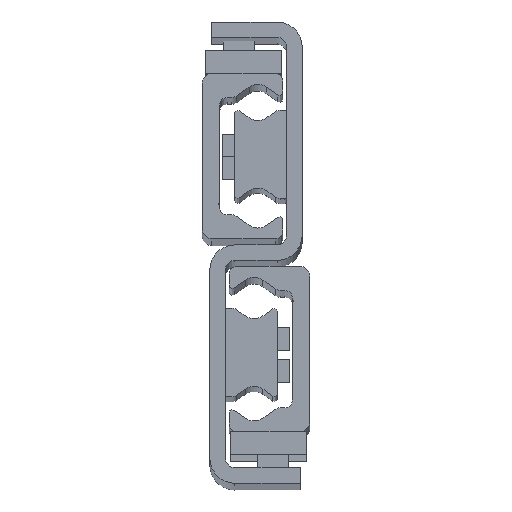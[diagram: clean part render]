
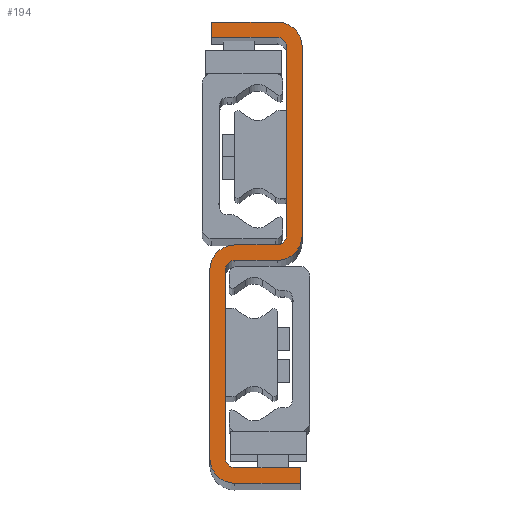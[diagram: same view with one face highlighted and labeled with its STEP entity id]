
A CAD part, top view. The second image highlights one B-rep face of the part: STEP entity #194.
In plain terms, the highlighted planar face has unit normal (0, 0, 1).
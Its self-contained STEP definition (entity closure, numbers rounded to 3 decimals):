
#194=ADVANCED_FACE('',(#633),#634,.T.);
#633=FACE_OUTER_BOUND('',#1319,.T.);
#634=PLANE('',#1320);
#1319=EDGE_LOOP('',(#2653,#2654,#2655,#2656,#2657,#2658,#2659,#2660,#2661,#2662,#2663,#2664,#2665,#2666,#2667,#2668,#2669,#2670,#2671,#2672));
#1320=AXIS2_PLACEMENT_3D('',#2673,#2674,#2675);
#2653=ORIENTED_EDGE('',*,*,#4557,.F.);
#2654=ORIENTED_EDGE('',*,*,#4615,.F.);
#2655=ORIENTED_EDGE('',*,*,#4612,.F.);
#2656=ORIENTED_EDGE('',*,*,#4609,.F.);
#2657=ORIENTED_EDGE('',*,*,#4606,.F.);
#2658=ORIENTED_EDGE('',*,*,#4603,.F.);
#2659=ORIENTED_EDGE('',*,*,#4600,.F.);
#2660=ORIENTED_EDGE('',*,*,#4597,.F.);
#2661=ORIENTED_EDGE('',*,*,#4594,.F.);
#2662=ORIENTED_EDGE('',*,*,#4591,.F.);
#2663=ORIENTED_EDGE('',*,*,#4588,.F.);
#2664=ORIENTED_EDGE('',*,*,#4585,.F.);
#2665=ORIENTED_EDGE('',*,*,#4582,.F.);
#2666=ORIENTED_EDGE('',*,*,#4579,.F.);
#2667=ORIENTED_EDGE('',*,*,#4576,.F.);
#2668=ORIENTED_EDGE('',*,*,#4573,.F.);
#2669=ORIENTED_EDGE('',*,*,#4570,.F.);
#2670=ORIENTED_EDGE('',*,*,#4567,.F.);
#2671=ORIENTED_EDGE('',*,*,#4564,.F.);
#2672=ORIENTED_EDGE('',*,*,#4561,.F.);
#2673=CARTESIAN_POINT('',(-14.,26.,1528.0));
#2674=DIRECTION('',(0.0,0.0,1.0));
#2675=DIRECTION('',(1.0,0.0,0.0));
#4557=EDGE_CURVE('',#5535,#5536,#5537,.T.);
#4561=EDGE_CURVE('',#5536,#5543,#5544,.T.);
#4564=EDGE_CURVE('',#5543,#5548,#5549,.T.);
#4567=EDGE_CURVE('',#5548,#5553,#5554,.T.);
#4570=EDGE_CURVE('',#5553,#5558,#5559,.T.);
#4573=EDGE_CURVE('',#5558,#5563,#5564,.T.);
#4576=EDGE_CURVE('',#5563,#5568,#5569,.T.);
#4579=EDGE_CURVE('',#5568,#5573,#5574,.T.);
#4582=EDGE_CURVE('',#5573,#5578,#5579,.T.);
#4585=EDGE_CURVE('',#5578,#5583,#5584,.T.);
#4588=EDGE_CURVE('',#5583,#5588,#5589,.T.);
#4591=EDGE_CURVE('',#5588,#5593,#5594,.T.);
#4594=EDGE_CURVE('',#5593,#5598,#5599,.T.);
#4597=EDGE_CURVE('',#5598,#5603,#5604,.T.);
#4600=EDGE_CURVE('',#5603,#5608,#5609,.T.);
#4603=EDGE_CURVE('',#5608,#5613,#5614,.T.);
#4606=EDGE_CURVE('',#5613,#5618,#5619,.T.);
#4609=EDGE_CURVE('',#5618,#5623,#5624,.T.);
#4612=EDGE_CURVE('',#5623,#5628,#5629,.T.);
#4615=EDGE_CURVE('',#5628,#5535,#5633,.T.);
#5535=VERTEX_POINT('',#7065);
#5536=VERTEX_POINT('',#7066);
#5537=LINE('',#7067,#7068);
#5543=VERTEX_POINT('',#7077);
#5544=CIRCLE('',#7078,2.5);
#5548=VERTEX_POINT('',#7083);
#5549=LINE('',#7084,#7085);
#5553=VERTEX_POINT('',#7091);
#5554=CIRCLE('',#7092,2.5);
#5558=VERTEX_POINT('',#7097);
#5559=LINE('',#7098,#7099);
#5563=VERTEX_POINT('',#7105);
#5564=LINE('',#7106,#7107);
#5568=VERTEX_POINT('',#7113);
#5569=LINE('',#7114,#7115);
#5573=VERTEX_POINT('',#7121);
#5574=CIRCLE('',#7122,6.5);
#5578=VERTEX_POINT('',#7127);
#5579=LINE('',#7128,#7129);
#5583=VERTEX_POINT('',#7135);
#5584=CIRCLE('',#7136,6.5);
#5588=VERTEX_POINT('',#7141);
#5589=LINE('',#7142,#7143);
#5593=VERTEX_POINT('',#7149);
#5594=CIRCLE('',#7150,2.5);
#5598=VERTEX_POINT('',#7155);
#5599=LINE('',#7156,#7157);
#5603=VERTEX_POINT('',#7163);
#5604=CIRCLE('',#7164,2.5);
#5608=VERTEX_POINT('',#7169);
#5609=LINE('',#7170,#7171);
#5613=VERTEX_POINT('',#7177);
#5614=LINE('',#7178,#7179);
#5618=VERTEX_POINT('',#7185);
#5619=LINE('',#7186,#7187);
#5623=VERTEX_POINT('',#7193);
#5624=CIRCLE('',#7194,6.5);
#5628=VERTEX_POINT('',#7199);
#5629=LINE('',#7200,#7201);
#5633=CIRCLE('',#7207,6.5);
#7065=CARTESIAN_POINT('',(-8.5,24.,1528.0));
#7066=CARTESIAN_POINT('',(-19.5,24.,1528.0));
#7067=CARTESIAN_POINT('',(-8.5,24.,1528.0));
#7068=VECTOR('',#8697,1.0);
#7077=CARTESIAN_POINT('',(-22.,21.5,1528.0));
#7078=AXIS2_PLACEMENT_3D('',#8701,#8702,#8703);
#7083=CARTESIAN_POINT('',(-22.,-27.5,1528.0));
#7084=CARTESIAN_POINT('',(-22.,-27.5,1528.0));
#7085=VECTOR('',#8708,1.0);
#7091=CARTESIAN_POINT('',(-19.5,-30.,1528.0));
#7092=AXIS2_PLACEMENT_3D('',#8711,#8712,#8713);
#7097=CARTESIAN_POINT('',(-2.5,-30.,1528.0));
#7098=CARTESIAN_POINT('',(-19.5,-30.,1528.0));
#7099=VECTOR('',#8718,1.0);
#7105=CARTESIAN_POINT('',(-2.5,-34.,1528.0));
#7106=CARTESIAN_POINT('',(-2.5,-34.,1528.0));
#7107=VECTOR('',#8721,1.0);
#7113=CARTESIAN_POINT('',(-19.5,-34.,1528.0));
#7114=CARTESIAN_POINT('',(-19.5,-34.,1528.0));
#7115=VECTOR('',#8724,1.0);
#7121=CARTESIAN_POINT('',(-26.,-27.5,1528.0));
#7122=AXIS2_PLACEMENT_3D('',#8727,#8728,#8729);
#7127=CARTESIAN_POINT('',(-26.,21.5,1528.0));
#7128=CARTESIAN_POINT('',(-26.,21.5,1528.0));
#7129=VECTOR('',#8734,1.0);
#7135=CARTESIAN_POINT('',(-19.5,28.,1528.0));
#7136=AXIS2_PLACEMENT_3D('',#8737,#8738,#8739);
#7141=CARTESIAN_POINT('',(-8.5,28.,1528.0));
#7142=CARTESIAN_POINT('',(-8.5,28.,1528.0));
#7143=VECTOR('',#8744,1.0);
#7149=CARTESIAN_POINT('',(-6.,30.5,1528.0));
#7150=AXIS2_PLACEMENT_3D('',#8747,#8748,#8749);
#7155=CARTESIAN_POINT('',(-6.,79.5,1528.0));
#7156=CARTESIAN_POINT('',(-6.,79.5,1528.0));
#7157=VECTOR('',#8754,1.0);
#7163=CARTESIAN_POINT('',(-8.5,82.,1528.0));
#7164=AXIS2_PLACEMENT_3D('',#8757,#8758,#8759);
#7169=CARTESIAN_POINT('',(-25.5,82.,1528.0));
#7170=CARTESIAN_POINT('',(-25.5,82.,1528.0));
#7171=VECTOR('',#8764,1.0);
#7177=CARTESIAN_POINT('',(-25.5,86.,1528.0));
#7178=CARTESIAN_POINT('',(-25.5,86.,1528.0));
#7179=VECTOR('',#8767,1.0);
#7185=CARTESIAN_POINT('',(-8.5,86.,1528.0));
#7186=CARTESIAN_POINT('',(-25.5,86.,1528.0));
#7187=VECTOR('',#8770,1.0);
#7193=CARTESIAN_POINT('',(-2.,79.5,1528.0));
#7194=AXIS2_PLACEMENT_3D('',#8773,#8774,#8775);
#7199=CARTESIAN_POINT('',(-2.,30.5,1528.0));
#7200=CARTESIAN_POINT('',(-2.,79.5,1528.0));
#7201=VECTOR('',#8780,1.0);
#7207=AXIS2_PLACEMENT_3D('',#8783,#8784,#8785);
#8697=DIRECTION('',(-1.0,0.,0.0));
#8701=CARTESIAN_POINT('',(-19.5,21.5,1528.0));
#8702=DIRECTION('',(0.0,0.0,1.0));
#8703=DIRECTION('',(1.0,0.0,0.0));
#8708=DIRECTION('',(-0.0,-1.0,-0.0));
#8711=CARTESIAN_POINT('',(-19.5,-27.5,1528.0));
#8712=DIRECTION('',(0.0,0.0,1.0));
#8713=DIRECTION('',(1.0,0.0,0.0));
#8718=DIRECTION('',(1.,0.,0.0));
#8721=DIRECTION('',(-0.0,-1.0,-0.0));
#8724=DIRECTION('',(-1.,0.,-0.0));
#8727=CARTESIAN_POINT('',(-19.5,-27.5,1528.0));
#8728=DIRECTION('',(0.0,0.0,-1.0));
#8729=DIRECTION('',(1.0,0.0,0.0));
#8734=DIRECTION('',(0.0,1.0,0.0));
#8737=CARTESIAN_POINT('',(-19.5,21.5,1528.0));
#8738=DIRECTION('',(0.0,0.0,-1.0));
#8739=DIRECTION('',(1.0,0.0,0.0));
#8744=DIRECTION('',(1.0,0.,0.0));
#8747=CARTESIAN_POINT('',(-8.5,30.5,1528.0));
#8748=DIRECTION('',(0.0,0.0,1.0));
#8749=DIRECTION('',(1.0,0.0,0.0));
#8754=DIRECTION('',(0.0,1.0,0.0));
#8757=CARTESIAN_POINT('',(-8.5,79.5,1528.0));
#8758=DIRECTION('',(0.0,0.0,1.0));
#8759=DIRECTION('',(1.0,0.0,0.0));
#8764=DIRECTION('',(-1.,0.,0.0));
#8767=DIRECTION('',(0.0,1.0,0.0));
#8770=DIRECTION('',(1.,0.,0.0));
#8773=CARTESIAN_POINT('',(-8.5,79.5,1528.0));
#8774=DIRECTION('',(0.0,0.0,-1.0));
#8775=DIRECTION('',(1.0,0.0,0.0));
#8780=DIRECTION('',(0.,-1.0,0.0));
#8783=CARTESIAN_POINT('',(-8.5,30.5,1528.0));
#8784=DIRECTION('',(0.0,0.0,-1.0));
#8785=DIRECTION('',(1.0,0.0,0.0));
